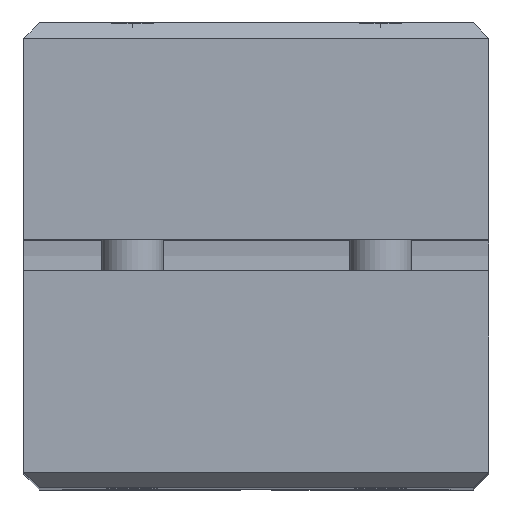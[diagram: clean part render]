
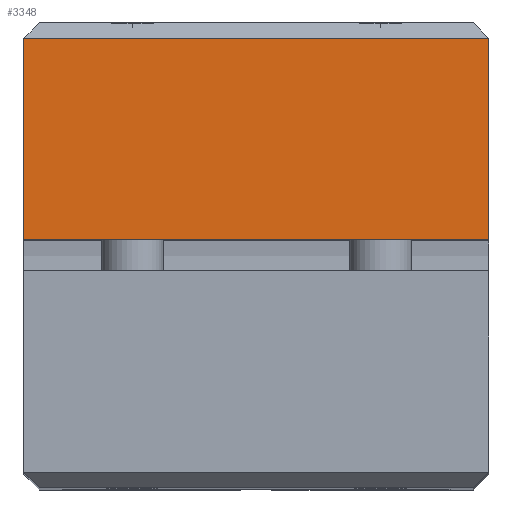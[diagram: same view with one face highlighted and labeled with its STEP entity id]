
A CAD part, top view. The second image highlights one B-rep face of the part: STEP entity #3348.
In plain terms, the highlighted planar face has unit normal (0, 0, 1).
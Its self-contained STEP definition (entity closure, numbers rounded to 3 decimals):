
#60 = ORIENTED_EDGE ( 'NONE', *, *, #1259, .F. ) ;
#90 = PLANE ( 'NONE',  #6090 ) ;
#91 = ORIENTED_EDGE ( 'NONE', *, *, #961, .T. ) ;
#378 = EDGE_CURVE ( 'NONE', #2908, #578, #8464, .T. ) ;
#578 = VERTEX_POINT ( 'NONE', #4827 ) ;
#640 = CARTESIAN_POINT ( 'NONE',  ( 0., 0., 78. ) ) ;
#892 = CARTESIAN_POINT ( 'NONE',  ( 1., -15., 78. ) ) ;
#961 = EDGE_CURVE ( 'NONE', #7012, #3194, #2525, .T. ) ;
#984 = CARTESIAN_POINT ( 'NONE',  ( 1., -15., 78. ) ) ;
#1259 = EDGE_CURVE ( 'NONE', #7012, #578, #4272, .T. ) ;
#1618 = VECTOR ( 'NONE', #2294, 1000. ) ;
#2294 = DIRECTION ( 'NONE',  ( 0., 1., 0. ) ) ;
#2525 = LINE ( 'NONE', #7297, #8096 ) ;
#2644 = DIRECTION ( 'NONE',  ( 1., 0., 0. ) ) ;
#2733 = DIRECTION ( 'NONE',  ( 0., 1., 0. ) ) ;
#2908 = VERTEX_POINT ( 'NONE', #3262 ) ;
#3194 = VERTEX_POINT ( 'NONE', #3841 ) ;
#3262 = CARTESIAN_POINT ( 'NONE',  ( 14., 15., 78. ) ) ;
#3348 = ADVANCED_FACE ( 'NONE', ( #3411 ), #90, .T. ) ;
#3411 = FACE_OUTER_BOUND ( 'NONE', #3747, .T. ) ;
#3747 = EDGE_LOOP ( 'NONE', ( #91, #7705, #6416, #60 ) ) ;
#3841 = CARTESIAN_POINT ( 'NONE',  ( 14., -15., 78. ) ) ;
#4045 = DIRECTION ( 'NONE',  ( 1., 0., 0. ) ) ;
#4272 = LINE ( 'NONE', #984, #1618 ) ;
#4827 = CARTESIAN_POINT ( 'NONE',  ( 1., 15., 78. ) ) ;
#4986 = CARTESIAN_POINT ( 'NONE',  ( 15., 15., 78. ) ) ;
#5689 = LINE ( 'NONE', #7393, #6089 ) ;
#6089 = VECTOR ( 'NONE', #2733, 1000. ) ;
#6090 = AXIS2_PLACEMENT_3D ( 'NONE', #640, #7860, #2644 ) ;
#6374 = DIRECTION ( 'NONE',  ( -1., 0., 0. ) ) ;
#6416 = ORIENTED_EDGE ( 'NONE', *, *, #378, .T. ) ;
#7012 = VERTEX_POINT ( 'NONE', #892 ) ;
#7297 = CARTESIAN_POINT ( 'NONE',  ( 15., -15., 78. ) ) ;
#7393 = CARTESIAN_POINT ( 'NONE',  ( 14., 15., 78. ) ) ;
#7705 = ORIENTED_EDGE ( 'NONE', *, *, #8317, .T. ) ;
#7860 = DIRECTION ( 'NONE',  ( 0., 0., 1. ) ) ;
#8096 = VECTOR ( 'NONE', #4045, 1000. ) ;
#8254 = VECTOR ( 'NONE', #6374, 1000. ) ;
#8317 = EDGE_CURVE ( 'NONE', #3194, #2908, #5689, .T. ) ;
#8464 = LINE ( 'NONE', #4986, #8254 ) ;
